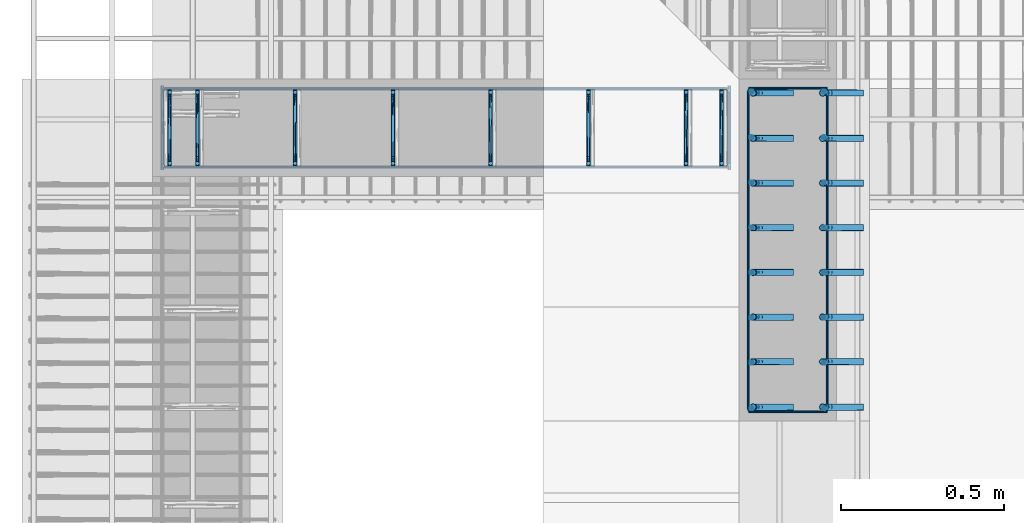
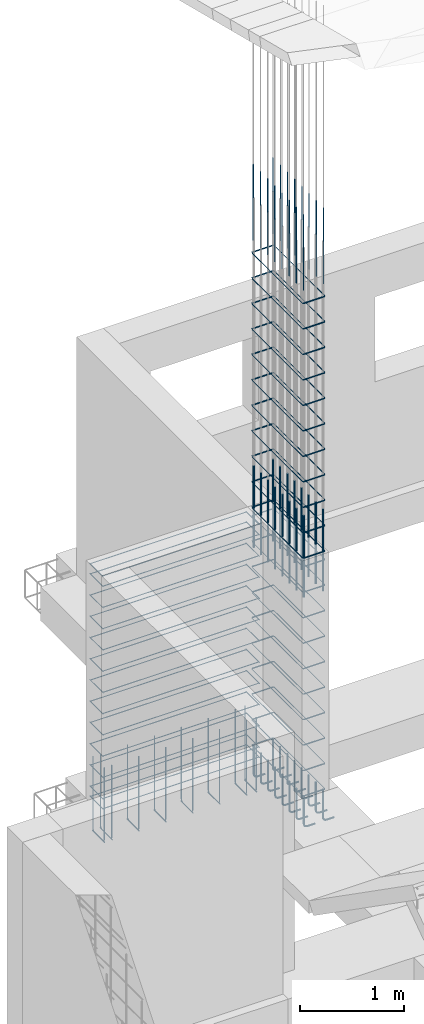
# One storey, part 10 of 15: 8 reinforcing bars.
"""IFC4 building model written with IfcOpenShell, lengths in metres."""

from ifc_helpers import new_model, entity, si_unit, origin_with_axes, place, context, project, spatial, source, transform, mapped, element, save


model = new_model("IFC4")

# Units and contexts
model_context = context("Model", 3, precision=1e-05, world=origin_with_axes())
ifc_project = project(units=[si_unit("LENGTHUNIT", "METRE"), si_unit("AREAUNIT", "SQUARE_METRE"), si_unit("VOLUMEUNIT", "CUBIC_METRE"), si_unit("MASSUNIT", "GRAM", prefix="KILO"), si_unit("TIMEUNIT", "SECOND"), si_unit("PLANEANGLEUNIT", "RADIAN"), si_unit("SOLIDANGLEUNIT", "STERADIAN"), si_unit("THERMODYNAMICTEMPERATUREUNIT", "DEGREE_CELSIUS")], contexts=[model_context])

# Site, building, storey
placement_1 = place(None, origin_with_axes())
site = spatial("IfcSite", under=ifc_project, at=placement_1, Name="Italia", CompositionType="ELEMENT")
building = spatial("IfcBuilding", under=site, at=placement_1, Name="Bifamiliare", CompositionType="ELEMENT")
storey = spatial("IfcBuildingStorey", under=building, at=placement_1, Name="Storey 0", CompositionType="ELEMENT", Elevation=0.0)

# Reinforcing bars
shared_shape_1 = source(origin_with_axes(), model_context, "Body", "AdvancedSweptSolid", [
    entity("IfcSweptDiskSolid", entity("IfcIndexedPolyCurve", entity("IfcCartesianPointList3D", [[6.182, 12.557, -0.375], [6.097, 12.557, -0.375], [6.08169, 12.557, -0.371955], [6.06872, 12.557, -0.363284], [6.06005, 12.557, -0.350307], [6.057, 12.557, -0.335], [6.057, 12.557, 0.0]]), [entity("IfcLineIndex", [1, 2]), entity("IfcLineIndex", [2, 3]), entity("IfcLineIndex", [3, 4]), entity("IfcLineIndex", [4, 5]), entity("IfcLineIndex", [5, 6]), entity("IfcLineIndex", [6, 7])], False), 0.01),
])
placement_2 = place(placement_1, origin_with_axes())
reinforcing_bar_1_placement = place(placement_2, origin_with_axes())
element("IfcReinforcingBar", 1, at=reinforcing_bar_1_placement, inside=storey, BarLength=0.482429, CrossSectionArea=0.00031416, NominalDiameter=0.02, context=model_context, shape_type="MappedRepresentation", body=[
    mapped(shared_shape_1, transform((0.0, -0.687715, 0.0), x_axis=(1.0, 0.0, 0.0), y_axis=(0.0, 1.0, 0.0), z_axis=(0.0, 0.0, 1.0), scale=1.0)),
    mapped(shared_shape_1, transform((0.0, -0.550571, 0.0), x_axis=(1.0, 0.0, 0.0), y_axis=(0.0, 1.0, 0.0), z_axis=(0.0, 0.0, 1.0), scale=1.0)),
    mapped(shared_shape_1, transform((0.0, -0.964001, 0.0), x_axis=(1.0, 0.0, 0.0), y_axis=(0.0, 1.0, 0.0), z_axis=(0.0, 0.0, 1.0), scale=1.0)),
    mapped(shared_shape_1, transform((0.0, -0.824858, 0.0), x_axis=(1.0, 0.0, 0.0), y_axis=(0.0, 1.0, 0.0), z_axis=(0.0, 0.0, 1.0), scale=1.0)),
    mapped(shared_shape_1, transform((0.0, -0.139143, 0.0), x_axis=(1.0, 0.0, 0.0), y_axis=(0.0, 1.0, 0.0), z_axis=(0.0, 0.0, 1.0), scale=1.0)),
    mapped(shared_shape_1, transform((0.0, 0.0, 0.0), x_axis=(1.0, 0.0, 0.0), y_axis=(0.0, 1.0, 0.0), z_axis=(0.0, 0.0, 1.0), scale=1.0)),
    mapped(shared_shape_1, transform((0.0, -0.413429, 0.0), x_axis=(1.0, 0.0, 0.0), y_axis=(0.0, 1.0, 0.0), z_axis=(0.0, 0.0, 1.0), scale=1.0)),
    mapped(shared_shape_1, transform((0.0, -0.276286, 0.0), x_axis=(1.0, 0.0, 0.0), y_axis=(0.0, 1.0, 0.0), z_axis=(0.0, 0.0, 1.0), scale=1.0)),
    mapped(shared_shape_1, transform((-0.214, -0.276286, 0.0), x_axis=(1.0, 0.0, 0.0), y_axis=(0.0, 1.0, 0.0), z_axis=(0.0, 0.0, 1.0), scale=1.0)),
    mapped(shared_shape_1, transform((-0.214, -0.413429, 0.0), x_axis=(1.0, 0.0, 0.0), y_axis=(0.0, 1.0, 0.0), z_axis=(0.0, 0.0, 1.0), scale=1.0)),
    mapped(shared_shape_1, transform((-0.214, 0.0, 0.0), x_axis=(1.0, 0.0, 0.0), y_axis=(0.0, 1.0, 0.0), z_axis=(0.0, 0.0, 1.0), scale=1.0)),
    mapped(shared_shape_1, transform((-0.214, -0.139143, 0.0), x_axis=(1.0, 0.0, 0.0), y_axis=(0.0, 1.0, 0.0), z_axis=(0.0, 0.0, 1.0), scale=1.0)),
    mapped(shared_shape_1, transform((-0.214, -0.824858, 0.0), x_axis=(1.0, 0.0, 0.0), y_axis=(0.0, 1.0, 0.0), z_axis=(0.0, 0.0, 1.0), scale=1.0)),
    mapped(shared_shape_1, transform((-0.214, -0.964001, 0.0), x_axis=(1.0, 0.0, 0.0), y_axis=(0.0, 1.0, 0.0), z_axis=(0.0, 0.0, 1.0), scale=1.0)),
    mapped(shared_shape_1, transform((-0.214, -0.550571, 0.0), x_axis=(1.0, 0.0, 0.0), y_axis=(0.0, 1.0, 0.0), z_axis=(0.0, 0.0, 1.0), scale=1.0)),
    mapped(shared_shape_1, transform((-0.214, -0.687715, 0.0), x_axis=(1.0, 0.0, 0.0), y_axis=(0.0, 1.0, 0.0), z_axis=(0.0, 0.0, 1.0), scale=1.0)),
])
shared_shape_2 = source(origin_with_axes(), model_context, "Body", "AdvancedSweptSolid", [
    entity("IfcSweptDiskSolid", entity("IfcIndexedPolyCurve", entity("IfcCartesianPointList3D", [[6.057, 12.557, 2.33333], [6.057, 12.557, 3.3]]), [entity("IfcLineIndex", [1, 2])], False), 0.01),
])
reinforcing_bar_2_placement = place(placement_2, origin_with_axes())
element("IfcReinforcingBar", 2, at=reinforcing_bar_2_placement, inside=storey, BarLength=0.966667, CrossSectionArea=0.00031416, NominalDiameter=0.02, context=model_context, shape_type="MappedRepresentation", body=[
    mapped(shared_shape_2, transform((0.0, -0.687715, 0.0), x_axis=(1.0, 0.0, 0.0), y_axis=(0.0, 1.0, 0.0), z_axis=(0.0, 0.0, 1.0), scale=1.0)),
    mapped(shared_shape_2, transform((0.0, -0.550571, 0.0), x_axis=(1.0, 0.0, 0.0), y_axis=(0.0, 1.0, 0.0), z_axis=(0.0, 0.0, 1.0), scale=1.0)),
    mapped(shared_shape_2, transform((0.0, -0.964001, 0.0), x_axis=(1.0, 0.0, 0.0), y_axis=(0.0, 1.0, 0.0), z_axis=(0.0, 0.0, 1.0), scale=1.0)),
    mapped(shared_shape_2, transform((0.0, -0.824858, 0.0), x_axis=(1.0, 0.0, 0.0), y_axis=(0.0, 1.0, 0.0), z_axis=(0.0, 0.0, 1.0), scale=1.0)),
    mapped(shared_shape_2, transform((0.0, -0.139143, 0.0), x_axis=(1.0, 0.0, 0.0), y_axis=(0.0, 1.0, 0.0), z_axis=(0.0, 0.0, 1.0), scale=1.0)),
    mapped(shared_shape_2, transform((0.0, 0.0, 0.0), x_axis=(1.0, 0.0, 0.0), y_axis=(0.0, 1.0, 0.0), z_axis=(0.0, 0.0, 1.0), scale=1.0)),
    mapped(shared_shape_2, transform((0.0, -0.413429, 0.0), x_axis=(1.0, 0.0, 0.0), y_axis=(0.0, 1.0, 0.0), z_axis=(0.0, 0.0, 1.0), scale=1.0)),
    mapped(shared_shape_2, transform((0.0, -0.276286, 0.0), x_axis=(1.0, 0.0, 0.0), y_axis=(0.0, 1.0, 0.0), z_axis=(0.0, 0.0, 1.0), scale=1.0)),
    mapped(shared_shape_2, transform((-0.214, -0.276286, 0.0), x_axis=(1.0, 0.0, 0.0), y_axis=(0.0, 1.0, 0.0), z_axis=(0.0, 0.0, 1.0), scale=1.0)),
    mapped(shared_shape_2, transform((-0.214, -0.413429, 0.0), x_axis=(1.0, 0.0, 0.0), y_axis=(0.0, 1.0, 0.0), z_axis=(0.0, 0.0, 1.0), scale=1.0)),
    mapped(shared_shape_2, transform((-0.214, 0.0, 0.0), x_axis=(1.0, 0.0, 0.0), y_axis=(0.0, 1.0, 0.0), z_axis=(0.0, 0.0, 1.0), scale=1.0)),
    mapped(shared_shape_2, transform((-0.214, -0.139143, 0.0), x_axis=(1.0, 0.0, 0.0), y_axis=(0.0, 1.0, 0.0), z_axis=(0.0, 0.0, 1.0), scale=1.0)),
    mapped(shared_shape_2, transform((-0.214, -0.824858, 0.0), x_axis=(1.0, 0.0, 0.0), y_axis=(0.0, 1.0, 0.0), z_axis=(0.0, 0.0, 1.0), scale=1.0)),
    mapped(shared_shape_2, transform((-0.214, -0.964001, 0.0), x_axis=(1.0, 0.0, 0.0), y_axis=(0.0, 1.0, 0.0), z_axis=(0.0, 0.0, 1.0), scale=1.0)),
    mapped(shared_shape_2, transform((-0.214, -0.550571, 0.0), x_axis=(1.0, 0.0, 0.0), y_axis=(0.0, 1.0, 0.0), z_axis=(0.0, 0.0, 1.0), scale=1.0)),
    mapped(shared_shape_2, transform((-0.214, -0.687715, 0.0), x_axis=(1.0, 0.0, 0.0), y_axis=(0.0, 1.0, 0.0), z_axis=(0.0, 0.0, 1.0), scale=1.0)),
])
shared_shape_3 = source(origin_with_axes(), model_context, "Body", "AdvancedSweptSolid", [
    entity("IfcSweptDiskSolid", entity("IfcIndexedPolyCurve", entity("IfcCartesianPointList3D", [[5.829, 12.571, 0.008], [6.061, 12.571, 0.008], [6.06483, 12.5702, 0.008], [6.06807, 12.5681, 0.008], [6.07024, 12.5648, 0.008], [6.071, 12.561, 0.008], [6.071, 11.589, 0.008], [6.07024, 11.5852, 0.008], [6.06807, 11.5819, 0.008], [6.06483, 11.5798, 0.008], [6.061, 11.579, 0.008], [5.829, 11.579, 0.008]]), [entity("IfcLineIndex", [1, 2]), entity("IfcLineIndex", [2, 3]), entity("IfcLineIndex", [3, 4]), entity("IfcLineIndex", [4, 5]), entity("IfcLineIndex", [5, 6]), entity("IfcLineIndex", [6, 7]), entity("IfcLineIndex", [7, 8]), entity("IfcLineIndex", [8, 9]), entity("IfcLineIndex", [9, 10]), entity("IfcLineIndex", [10, 11]), entity("IfcLineIndex", [11, 12])], False), 0.004),
])
reinforcing_bar_3_placement = place(placement_2, origin_with_axes())
element("IfcReinforcingBar", 3, at=reinforcing_bar_3_placement, inside=storey, BarLength=1.46722, CrossSectionArea=5.0265e-05, NominalDiameter=0.008, context=model_context, shape_type="MappedRepresentation", body=[
    mapped(shared_shape_3, transform((0.0, 0.0, 0.0), x_axis=(1.0, 0.0, 0.0), y_axis=(0.0, 1.0, 0.0), z_axis=(0.0, 0.0, 1.0), scale=1.0)),
    mapped(shared_shape_3, transform((0.0, 0.0, 0.6), x_axis=(1.0, 0.0, 0.0), y_axis=(0.0, 1.0, 0.0), z_axis=(0.0, 0.0, 1.0), scale=1.0)),
    mapped(shared_shape_3, transform((0.0, 0.0, 0.3), x_axis=(1.0, 0.0, 0.0), y_axis=(0.0, 1.0, 0.0), z_axis=(0.0, 0.0, 1.0), scale=1.0)),
    mapped(shared_shape_3, transform((11.9, 24.15, 0.892), x_axis=(-1.0, 0.0, 0.0), y_axis=(0.0, -1.0, 0.0), z_axis=(0.0, 0.0, 1.0), scale=1.0)),
    mapped(shared_shape_3, transform((11.9, 24.15, 0.592), x_axis=(-1.0, 0.0, 0.0), y_axis=(0.0, -1.0, 0.0), z_axis=(0.0, 0.0, 1.0), scale=1.0)),
    mapped(shared_shape_3, transform((0.0, 0.0, 1.2), x_axis=(1.0, 0.0, 0.0), y_axis=(0.0, 1.0, 0.0), z_axis=(0.0, 0.0, 1.0), scale=1.0)),
    mapped(shared_shape_3, transform((11.9, 24.15, 0.292), x_axis=(-1.0, 0.0, 0.0), y_axis=(0.0, -1.0, 0.0), z_axis=(0.0, 0.0, 1.0), scale=1.0)),
    mapped(shared_shape_3, transform((0.0, 0.0, 1.5), x_axis=(1.0, 0.0, 0.0), y_axis=(0.0, 1.0, 0.0), z_axis=(0.0, 0.0, 1.0), scale=1.0)),
    mapped(shared_shape_3, transform((0.0, 0.0, 0.9), x_axis=(1.0, 0.0, 0.0), y_axis=(0.0, 1.0, 0.0), z_axis=(0.0, 0.0, 1.0), scale=1.0)),
    mapped(shared_shape_3, transform((11.9, 24.15, 1.192), x_axis=(-1.0, 0.0, 0.0), y_axis=(0.0, -1.0, 0.0), z_axis=(0.0, 0.0, 1.0), scale=1.0)),
    mapped(shared_shape_3, transform((11.9, 24.15, 1.792), x_axis=(-1.0, 0.0, 0.0), y_axis=(0.0, -1.0, 0.0), z_axis=(0.0, 0.0, 1.0), scale=1.0)),
    mapped(shared_shape_3, transform((11.9, 24.15, 1.492), x_axis=(-1.0, 0.0, 0.0), y_axis=(0.0, -1.0, 0.0), z_axis=(0.0, 0.0, 1.0), scale=1.0)),
    mapped(shared_shape_3, transform((0.0, 0.0, 2.7), x_axis=(1.0, 0.0, 0.0), y_axis=(0.0, 1.0, 0.0), z_axis=(0.0, 0.0, 1.0), scale=1.0)),
    mapped(shared_shape_3, transform((11.9, 24.15, -0.008), x_axis=(-1.0, 0.0, 0.0), y_axis=(0.0, -1.0, 0.0), z_axis=(0.0, 0.0, 1.0), scale=1.0)),
    mapped(shared_shape_3, transform((0.0, 0.0, 2.1), x_axis=(1.0, 0.0, 0.0), y_axis=(0.0, 1.0, 0.0), z_axis=(0.0, 0.0, 1.0), scale=1.0)),
    mapped(shared_shape_3, transform((0.0, 0.0, 2.4), x_axis=(1.0, 0.0, 0.0), y_axis=(0.0, 1.0, 0.0), z_axis=(0.0, 0.0, 1.0), scale=1.0)),
    mapped(shared_shape_3, transform((0.0, 0.0, 1.8), x_axis=(1.0, 0.0, 0.0), y_axis=(0.0, 1.0, 0.0), z_axis=(0.0, 0.0, 1.0), scale=1.0)),
    mapped(shared_shape_3, transform((11.9, 24.15, 2.392), x_axis=(-1.0, 0.0, 0.0), y_axis=(0.0, -1.0, 0.0), z_axis=(0.0, 0.0, 1.0), scale=1.0)),
    mapped(shared_shape_3, transform((11.9, 24.15, 2.092), x_axis=(-1.0, 0.0, 0.0), y_axis=(0.0, -1.0, 0.0), z_axis=(0.0, 0.0, 1.0), scale=1.0)),
    mapped(shared_shape_3, transform((11.9, 24.15, 2.692), x_axis=(-1.0, 0.0, 0.0), y_axis=(0.0, -1.0, 0.0), z_axis=(0.0, 0.0, 1.0), scale=1.0)),
])
shared_shape_4 = source(origin_with_axes(), model_context, "Body", "AdvancedSweptSolid", [
    entity("IfcSweptDiskSolid", entity("IfcIndexedPolyCurve", entity("IfcCartesianPointList3D", [[5.829, 12.571, 2.808], [6.061, 12.571, 2.808], [6.06483, 12.5702, 2.808], [6.06807, 12.5681, 2.808], [6.07024, 12.5648, 2.808], [6.071, 12.561, 2.808], [6.071, 11.589, 2.808], [6.07024, 11.5852, 2.808], [6.06807, 11.5819, 2.808], [6.06483, 11.5798, 2.808], [6.061, 11.579, 2.808], [5.829, 11.579, 2.808]]), [entity("IfcLineIndex", [1, 2]), entity("IfcLineIndex", [2, 3]), entity("IfcLineIndex", [3, 4]), entity("IfcLineIndex", [4, 5]), entity("IfcLineIndex", [5, 6]), entity("IfcLineIndex", [6, 7]), entity("IfcLineIndex", [7, 8]), entity("IfcLineIndex", [8, 9]), entity("IfcLineIndex", [9, 10]), entity("IfcLineIndex", [10, 11]), entity("IfcLineIndex", [11, 12])], False), 0.004),
])
reinforcing_bar_4_placement = place(placement_2, origin_with_axes())
element("IfcReinforcingBar", 4, at=reinforcing_bar_4_placement, inside=storey, BarLength=1.46722, CrossSectionArea=5.0265e-05, NominalDiameter=0.008, context=model_context, shape_type="MappedRepresentation", body=[
    mapped(shared_shape_4, transform((0.0, 0.0, 1.5), x_axis=(1.0, 0.0, 0.0), y_axis=(0.0, 1.0, 0.0), z_axis=(0.0, 0.0, 1.0), scale=1.0)),
    mapped(shared_shape_4, transform((0.0, 0.0, 0.3), x_axis=(1.0, 0.0, 0.0), y_axis=(0.0, 1.0, 0.0), z_axis=(0.0, 0.0, 1.0), scale=1.0)),
    mapped(shared_shape_4, transform((0.0, 0.0, 1.2), x_axis=(1.0, 0.0, 0.0), y_axis=(0.0, 1.0, 0.0), z_axis=(0.0, 0.0, 1.0), scale=1.0)),
    mapped(shared_shape_4, transform((0.0, 0.0, 2.4), x_axis=(1.0, 0.0, 0.0), y_axis=(0.0, 1.0, 0.0), z_axis=(0.0, 0.0, 1.0), scale=1.0)),
    mapped(shared_shape_4, transform((0.0, 0.0, 0.9), x_axis=(1.0, 0.0, 0.0), y_axis=(0.0, 1.0, 0.0), z_axis=(0.0, 0.0, 1.0), scale=1.0)),
    mapped(shared_shape_4, transform((0.0, 0.0, 2.7), x_axis=(1.0, 0.0, 0.0), y_axis=(0.0, 1.0, 0.0), z_axis=(0.0, 0.0, 1.0), scale=1.0)),
    mapped(shared_shape_4, transform((11.9, 24.15, -0.00800014), x_axis=(-1.0, 0.0, 0.0), y_axis=(0.0, -1.0, 0.0), z_axis=(0.0, 0.0, 1.0), scale=1.0)),
    mapped(shared_shape_4, transform((0.0, 0.0, 0.0), x_axis=(1.0, 0.0, 0.0), y_axis=(0.0, 1.0, 0.0), z_axis=(0.0, 0.0, 1.0), scale=1.0)),
    mapped(shared_shape_4, transform((11.9, 24.15, 0.592), x_axis=(-1.0, 0.0, 0.0), y_axis=(0.0, -1.0, 0.0), z_axis=(0.0, 0.0, 1.0), scale=1.0)),
    mapped(shared_shape_4, transform((11.9, 24.15, 0.292), x_axis=(-1.0, 0.0, 0.0), y_axis=(0.0, -1.0, 0.0), z_axis=(0.0, 0.0, 1.0), scale=1.0)),
    mapped(shared_shape_4, transform((0.0, 0.0, 0.6), x_axis=(1.0, 0.0, 0.0), y_axis=(0.0, 1.0, 0.0), z_axis=(0.0, 0.0, 1.0), scale=1.0)),
    mapped(shared_shape_4, transform((11.9, 24.15, 1.792), x_axis=(-1.0, 0.0, 0.0), y_axis=(0.0, -1.0, 0.0), z_axis=(0.0, 0.0, 1.0), scale=1.0)),
    mapped(shared_shape_4, transform((11.9, 24.15, 1.492), x_axis=(-1.0, 0.0, 0.0), y_axis=(0.0, -1.0, 0.0), z_axis=(0.0, 0.0, 1.0), scale=1.0)),
    mapped(shared_shape_4, transform((11.9, 24.15, 0.892), x_axis=(-1.0, 0.0, 0.0), y_axis=(0.0, -1.0, 0.0), z_axis=(0.0, 0.0, 1.0), scale=1.0)),
    mapped(shared_shape_4, transform((11.9, 24.15, 1.192), x_axis=(-1.0, 0.0, 0.0), y_axis=(0.0, -1.0, 0.0), z_axis=(0.0, 0.0, 1.0), scale=1.0)),
    mapped(shared_shape_4, transform((0.0, 0.0, 2.1), x_axis=(1.0, 0.0, 0.0), y_axis=(0.0, 1.0, 0.0), z_axis=(0.0, 0.0, 1.0), scale=1.0)),
    mapped(shared_shape_4, transform((0.0, 0.0, 3.0), x_axis=(1.0, 0.0, 0.0), y_axis=(0.0, 1.0, 0.0), z_axis=(0.0, 0.0, 1.0), scale=1.0)),
    mapped(shared_shape_4, transform((0.0, 0.0, 1.8), x_axis=(1.0, 0.0, 0.0), y_axis=(0.0, 1.0, 0.0), z_axis=(0.0, 0.0, 1.0), scale=1.0)),
    mapped(shared_shape_4, transform((11.9, 24.15, 2.092), x_axis=(-1.0, 0.0, 0.0), y_axis=(0.0, -1.0, 0.0), z_axis=(0.0, 0.0, 1.0), scale=1.0)),
    mapped(shared_shape_4, transform((11.9, 24.15, 2.392), x_axis=(-1.0, 0.0, 0.0), y_axis=(0.0, -1.0, 0.0), z_axis=(0.0, 0.0, 1.0), scale=1.0)),
    mapped(shared_shape_4, transform((11.9, 24.15, 2.692), x_axis=(-1.0, 0.0, 0.0), y_axis=(0.0, -1.0, 0.0), z_axis=(0.0, 0.0, 1.0), scale=1.0)),
    mapped(shared_shape_4, transform((11.9, 24.15, 2.992), x_axis=(-1.0, 0.0, 0.0), y_axis=(0.0, -1.0, 0.0), z_axis=(0.0, 0.0, 1.0), scale=1.0)),
])
shared_shape_5 = source(origin_with_axes(), model_context, "Body", "AdvancedSweptSolid", [
    entity("IfcSweptDiskSolid", entity("IfcIndexedPolyCurve", entity("IfcCartesianPointList3D", [[6.061, 12.561, 5.95], [6.061, 12.561, 6.41048]]), [entity("IfcLineIndex", [1, 2])], False), 0.006),
])
reinforcing_bar_5_placement = place(placement_2, origin_with_axes())
element("IfcReinforcingBar", 5, at=reinforcing_bar_5_placement, inside=storey, BarLength=0.460475, CrossSectionArea=0.0001131, NominalDiameter=0.012, context=model_context, shape_type="MappedRepresentation", body=[
    mapped(shared_shape_5, transform((0.0, -0.693429, 0.0), x_axis=(1.0, 0.0, 0.0), y_axis=(0.0, 1.0, 0.0), z_axis=(0.0, 0.0, 1.0), scale=1.0)),
    mapped(shared_shape_5, transform((0.0, -0.555143, 0.0), x_axis=(1.0, 0.0, 0.0), y_axis=(0.0, 1.0, 0.0), z_axis=(0.0, 0.0, 1.0), scale=1.0)),
    mapped(shared_shape_5, transform((0.0, -0.972, 0.0), x_axis=(1.0, 0.0, 0.0), y_axis=(0.0, 1.0, 0.0), z_axis=(0.0, 0.0, 1.0), scale=1.0)),
    mapped(shared_shape_5, transform((0.0, -0.831715, 0.0), x_axis=(1.0, 0.0, 0.0), y_axis=(0.0, 1.0, 0.0), z_axis=(0.0, 0.0, 1.0), scale=1.0)),
    mapped(shared_shape_5, transform((0.0, -0.140285, 0.0), x_axis=(1.0, 0.0, 0.0), y_axis=(0.0, 1.0, 0.0), z_axis=(0.0, 0.0, 1.0), scale=1.0)),
    mapped(shared_shape_5, transform((0.0, 0.0, 0.0), x_axis=(1.0, 0.0, 0.0), y_axis=(0.0, 1.0, 0.0), z_axis=(0.0, 0.0, 1.0), scale=1.0)),
    mapped(shared_shape_5, transform((0.0, -0.416857, 0.0), x_axis=(1.0, 0.0, 0.0), y_axis=(0.0, 1.0, 0.0), z_axis=(0.0, 0.0, 1.0), scale=1.0)),
    mapped(shared_shape_5, transform((0.0, -0.278571, 0.0), x_axis=(1.0, 0.0, 0.0), y_axis=(0.0, 1.0, 0.0), z_axis=(0.0, 0.0, 1.0), scale=1.0)),
    mapped(shared_shape_5, transform((-0.222, -0.278571, 0.0), x_axis=(1.0, 0.0, 0.0), y_axis=(0.0, 1.0, 0.0), z_axis=(0.0, 0.0, 1.0), scale=1.0)),
    mapped(shared_shape_5, transform((-0.222, -0.416857, 0.0), x_axis=(1.0, 0.0, 0.0), y_axis=(0.0, 1.0, 0.0), z_axis=(0.0, 0.0, 1.0), scale=1.0)),
    mapped(shared_shape_5, transform((-0.222, 0.0, 0.0), x_axis=(1.0, 0.0, 0.0), y_axis=(0.0, 1.0, 0.0), z_axis=(0.0, 0.0, 1.0), scale=1.0)),
    mapped(shared_shape_5, transform((-0.222, -0.140285, 0.0), x_axis=(1.0, 0.0, 0.0), y_axis=(0.0, 1.0, 0.0), z_axis=(0.0, 0.0, 1.0), scale=1.0)),
    mapped(shared_shape_5, transform((-0.222, -0.831715, 0.0), x_axis=(1.0, 0.0, 0.0), y_axis=(0.0, 1.0, 0.0), z_axis=(0.0, 0.0, 1.0), scale=1.0)),
    mapped(shared_shape_5, transform((-0.222, -0.972, 0.0), x_axis=(1.0, 0.0, 0.0), y_axis=(0.0, 1.0, 0.0), z_axis=(0.0, 0.0, 1.0), scale=1.0)),
    mapped(shared_shape_5, transform((-0.222, -0.555143, 0.0), x_axis=(1.0, 0.0, 0.0), y_axis=(0.0, 1.0, 0.0), z_axis=(0.0, 0.0, 1.0), scale=1.0)),
    mapped(shared_shape_5, transform((-0.222, -0.693429, 0.0), x_axis=(1.0, 0.0, 0.0), y_axis=(0.0, 1.0, 0.0), z_axis=(0.0, 0.0, 1.0), scale=1.0)),
])
shared_shape_6 = source(origin_with_axes(), model_context, "Body", "AdvancedSweptSolid", [
    entity("IfcSweptDiskSolid", entity("IfcIndexedPolyCurve", entity("IfcCartesianPointList3D", [[6.061, 12.561, 6.41048], [6.061, 12.561, 6.84619]]), [entity("IfcLineIndex", [1, 2])], False), 0.006),
])
reinforcing_bar_6_placement = place(placement_2, origin_with_axes())
element("IfcReinforcingBar", 6, at=reinforcing_bar_6_placement, inside=storey, BarLength=0.435714, CrossSectionArea=0.0001131, NominalDiameter=0.012, context=model_context, shape_type="MappedRepresentation", body=[
    mapped(shared_shape_6, transform((0.0, -0.693429, 0.0), x_axis=(1.0, 0.0, 0.0), y_axis=(0.0, 1.0, 0.0), z_axis=(0.0, 0.0, 1.0), scale=1.0)),
    mapped(shared_shape_6, transform((0.0, -0.555143, 0.0), x_axis=(1.0, 0.0, 0.0), y_axis=(0.0, 1.0, 0.0), z_axis=(0.0, 0.0, 1.0), scale=1.0)),
    mapped(shared_shape_6, transform((0.0, -0.972, 0.0), x_axis=(1.0, 0.0, 0.0), y_axis=(0.0, 1.0, 0.0), z_axis=(0.0, 0.0, 1.0), scale=1.0)),
    mapped(shared_shape_6, transform((0.0, -0.831715, 0.0), x_axis=(1.0, 0.0, 0.0), y_axis=(0.0, 1.0, 0.0), z_axis=(0.0, 0.0, 1.0), scale=1.0)),
    mapped(shared_shape_6, transform((0.0, -0.140285, 0.0), x_axis=(1.0, 0.0, 0.0), y_axis=(0.0, 1.0, 0.0), z_axis=(0.0, 0.0, 1.0), scale=1.0)),
    mapped(shared_shape_6, transform((0.0, 0.0, 0.0), x_axis=(1.0, 0.0, 0.0), y_axis=(0.0, 1.0, 0.0), z_axis=(0.0, 0.0, 1.0), scale=1.0)),
    mapped(shared_shape_6, transform((0.0, -0.416857, 0.0), x_axis=(1.0, 0.0, 0.0), y_axis=(0.0, 1.0, 0.0), z_axis=(0.0, 0.0, 1.0), scale=1.0)),
    mapped(shared_shape_6, transform((0.0, -0.278571, 0.0), x_axis=(1.0, 0.0, 0.0), y_axis=(0.0, 1.0, 0.0), z_axis=(0.0, 0.0, 1.0), scale=1.0)),
    mapped(shared_shape_6, transform((-0.222, -0.278571, 0.0), x_axis=(1.0, 0.0, 0.0), y_axis=(0.0, 1.0, 0.0), z_axis=(0.0, 0.0, 1.0), scale=1.0)),
    mapped(shared_shape_6, transform((-0.222, -0.416857, 0.0), x_axis=(1.0, 0.0, 0.0), y_axis=(0.0, 1.0, 0.0), z_axis=(0.0, 0.0, 1.0), scale=1.0)),
    mapped(shared_shape_6, transform((-0.222, 0.0, 0.0), x_axis=(1.0, 0.0, 0.0), y_axis=(0.0, 1.0, 0.0), z_axis=(0.0, 0.0, 1.0), scale=1.0)),
    mapped(shared_shape_6, transform((-0.222, -0.140285, 0.0), x_axis=(1.0, 0.0, 0.0), y_axis=(0.0, 1.0, 0.0), z_axis=(0.0, 0.0, 1.0), scale=1.0)),
    mapped(shared_shape_6, transform((-0.222, -0.831715, 0.0), x_axis=(1.0, 0.0, 0.0), y_axis=(0.0, 1.0, 0.0), z_axis=(0.0, 0.0, 1.0), scale=1.0)),
    mapped(shared_shape_6, transform((-0.222, -0.972, 0.0), x_axis=(1.0, 0.0, 0.0), y_axis=(0.0, 1.0, 0.0), z_axis=(0.0, 0.0, 1.0), scale=1.0)),
    mapped(shared_shape_6, transform((-0.222, -0.555143, 0.0), x_axis=(1.0, 0.0, 0.0), y_axis=(0.0, 1.0, 0.0), z_axis=(0.0, 0.0, 1.0), scale=1.0)),
    mapped(shared_shape_6, transform((-0.222, -0.693429, 0.0), x_axis=(1.0, 0.0, 0.0), y_axis=(0.0, 1.0, 0.0), z_axis=(0.0, 0.0, 1.0), scale=1.0)),
])
shared_shape_7 = source(origin_with_axes(), model_context, "Body", "AdvancedSweptSolid", [
    entity("IfcSweptDiskSolid", entity("IfcIndexedPolyCurve", entity("IfcCartesianPointList3D", [[4.053, 12.341, 0.5], [4.053, 12.341, -0.345], [4.053, 12.3433, -0.356481], [4.053, 12.3498, -0.366213], [4.053, 12.3595, -0.372716], [4.053, 12.371, -0.375], [4.053, 12.567, -0.375]]), [entity("IfcLineIndex", [1, 2]), entity("IfcLineIndex", [2, 3]), entity("IfcLineIndex", [3, 4]), entity("IfcLineIndex", [4, 5]), entity("IfcLineIndex", [5, 6]), entity("IfcLineIndex", [6, 7])], False), 0.006),
])
reinforcing_bar_7_placement = place(placement_2, origin_with_axes())
element("IfcReinforcingBar", 7, at=reinforcing_bar_7_placement, inside=storey, BarLength=1.08782, CrossSectionArea=0.0001131, NominalDiameter=0.012, context=model_context, shape_type="MappedRepresentation", body=[
    mapped(shared_shape_7, transform((8.491, 24.9, 0.0), x_axis=(-1.0, 0.0, 0.0), y_axis=(0.0, -1.0, 0.0), z_axis=(0.0, 0.0, 1.0), scale=1.0)),
    mapped(shared_shape_7, transform((0.385, 0.0, 0.0), x_axis=(1.0, 0.0, 0.0), y_axis=(0.0, 1.0, 0.0), z_axis=(0.0, 0.0, 1.0), scale=1.0)),
    mapped(shared_shape_7, transform((8.791, 24.9, 0.0), x_axis=(-1.0, 0.0, 0.0), y_axis=(0.0, -1.0, 0.0), z_axis=(0.0, 0.0, 1.0), scale=1.0)),
    mapped(shared_shape_7, transform((0.685, 0.0, 0.0), x_axis=(1.0, 0.0, 0.0), y_axis=(0.0, 1.0, 0.0), z_axis=(0.0, 0.0, 1.0), scale=1.0)),
    mapped(shared_shape_7, transform((8.106, 24.9, 0.0), x_axis=(-1.0, 0.0, 0.0), y_axis=(0.0, -1.0, 0.0), z_axis=(0.0, 0.0, 1.0), scale=1.0)),
    mapped(shared_shape_7, transform((0.0, 0.0, 0.0), x_axis=(1.0, 0.0, 0.0), y_axis=(0.0, 1.0, 0.0), z_axis=(0.0, 0.0, 1.0), scale=1.0)),
    mapped(shared_shape_7, transform((8.191, 24.9, 0.0), x_axis=(-1.0, 0.0, 0.0), y_axis=(0.0, -1.0, 0.0), z_axis=(0.0, 0.0, 1.0), scale=1.0)),
    mapped(shared_shape_7, transform((0.085, 0.0, 0.0), x_axis=(1.0, 0.0, 0.0), y_axis=(0.0, 1.0, 0.0), z_axis=(0.0, 0.0, 1.0), scale=1.0)),
    mapped(shared_shape_7, transform((9.691, 24.9, 0.0), x_axis=(-1.0, 0.0, 0.0), y_axis=(0.0, -1.0, 0.0), z_axis=(0.0, 0.0, 1.0), scale=1.0)),
    mapped(shared_shape_7, transform((1.585, 0.0, 0.0), x_axis=(1.0, 0.0, 0.0), y_axis=(0.0, 1.0, 0.0), z_axis=(0.0, 0.0, 1.0), scale=1.0)),
    mapped(shared_shape_7, transform((9.8, 24.9, 0.0), x_axis=(-1.0, 0.0, 0.0), y_axis=(0.0, -1.0, 0.0), z_axis=(0.0, 0.0, 1.0), scale=1.0)),
    mapped(shared_shape_7, transform((1.694, 0.0, 0.0), x_axis=(1.0, 0.0, 0.0), y_axis=(0.0, 1.0, 0.0), z_axis=(0.0, 0.0, 1.0), scale=1.0)),
    mapped(shared_shape_7, transform((9.091, 24.9, 0.0), x_axis=(-1.0, 0.0, 0.0), y_axis=(0.0, -1.0, 0.0), z_axis=(0.0, 0.0, 1.0), scale=1.0)),
    mapped(shared_shape_7, transform((0.985, 0.0, 0.0), x_axis=(1.0, 0.0, 0.0), y_axis=(0.0, 1.0, 0.0), z_axis=(0.0, 0.0, 1.0), scale=1.0)),
    mapped(shared_shape_7, transform((9.391, 24.9, 0.0), x_axis=(-1.0, 0.0, 0.0), y_axis=(0.0, -1.0, 0.0), z_axis=(0.0, 0.0, 1.0), scale=1.0)),
    mapped(shared_shape_7, transform((1.285, 0.0, 0.0), x_axis=(1.0, 0.0, 0.0), y_axis=(0.0, 1.0, 0.0), z_axis=(0.0, 0.0, 1.0), scale=1.0)),
])
shared_shape_8 = source(origin_with_axes(), model_context, "Body", "AdvancedSweptSolid", [
    entity("IfcSweptDiskSolid", entity("IfcIndexedPolyCurve", entity("IfcCartesianPointList3D", [[4.03, 12.32, 0.03], [4.03, 12.56, 0.03], [4.03076, 12.5638, 0.03], [4.03293, 12.5671, 0.03], [4.03617, 12.5692, 0.03], [4.04, 12.57, 0.03], [5.76, 12.57, 0.03], [5.76383, 12.5692, 0.03], [5.76707, 12.5671, 0.03], [5.76924, 12.5638, 0.03], [5.77, 12.56, 0.03], [5.77, 12.32, 0.03]]), [entity("IfcLineIndex", [1, 2]), entity("IfcLineIndex", [2, 3]), entity("IfcLineIndex", [3, 4]), entity("IfcLineIndex", [4, 5]), entity("IfcLineIndex", [5, 6]), entity("IfcLineIndex", [6, 7]), entity("IfcLineIndex", [7, 8]), entity("IfcLineIndex", [8, 9]), entity("IfcLineIndex", [9, 10]), entity("IfcLineIndex", [10, 11]), entity("IfcLineIndex", [11, 12])], False), 0.005),
])
reinforcing_bar_8_placement = place(placement_2, origin_with_axes())
element("IfcReinforcingBar", 8, at=reinforcing_bar_8_placement, inside=storey, BarLength=2.23122, CrossSectionArea=7.854e-05, NominalDiameter=0.01, context=model_context, shape_type="MappedRepresentation", body=[
    mapped(shared_shape_8, transform((9.8, 24.9, 0.0), x_axis=(-1.0, 0.0, 0.0), y_axis=(0.0, -1.0, 0.0), z_axis=(0.0, 0.0, 1.0), scale=1.0)),
    mapped(shared_shape_8, transform((0.0, 0.0, 1.37), x_axis=(1.0, 0.0, 0.0), y_axis=(0.0, 1.0, 0.0), z_axis=(0.0, 0.0, 1.0), scale=1.0)),
    mapped(shared_shape_8, transform((0.0, 0.0, 2.37), x_axis=(1.0, 0.0, 0.0), y_axis=(0.0, 1.0, 0.0), z_axis=(0.0, 0.0, 1.0), scale=1.0)),
    mapped(shared_shape_8, transform((0.0, 0.0, 0.87), x_axis=(1.0, 0.0, 0.0), y_axis=(0.0, 1.0, 0.0), z_axis=(0.0, 0.0, 1.0), scale=1.0)),
    mapped(shared_shape_8, transform((0.0, 0.0, 0.62), x_axis=(1.0, 0.0, 0.0), y_axis=(0.0, 1.0, 0.0), z_axis=(0.0, 0.0, 1.0), scale=1.0)),
    mapped(shared_shape_8, transform((0.0, 0.0, 2.74), x_axis=(1.0, 0.0, 0.0), y_axis=(0.0, 1.0, 0.0), z_axis=(0.0, 0.0, 1.0), scale=1.0)),
    mapped(shared_shape_8, transform((0.0, 0.0, 1.12), x_axis=(1.0, 0.0, 0.0), y_axis=(0.0, 1.0, 0.0), z_axis=(0.0, 0.0, 1.0), scale=1.0)),
    mapped(shared_shape_8, transform((0.0, 0.0, 2.62), x_axis=(1.0, 0.0, 0.0), y_axis=(0.0, 1.0, 0.0), z_axis=(0.0, 0.0, 1.0), scale=1.0)),
    mapped(shared_shape_8, transform((0.0, 0.0, 1.62), x_axis=(1.0, 0.0, 0.0), y_axis=(0.0, 1.0, 0.0), z_axis=(0.0, 0.0, 1.0), scale=1.0)),
    mapped(shared_shape_8, transform((0.0, 0.0, 0.12), x_axis=(1.0, 0.0, 0.0), y_axis=(0.0, 1.0, 0.0), z_axis=(0.0, 0.0, 1.0), scale=1.0)),
    mapped(shared_shape_8, transform((0.0, 0.0, 0.0), x_axis=(1.0, 0.0, 0.0), y_axis=(0.0, 1.0, 0.0), z_axis=(0.0, 0.0, 1.0), scale=1.0)),
    mapped(shared_shape_8, transform((9.8, 24.9, 0.12), x_axis=(-1.0, 0.0, 0.0), y_axis=(0.0, -1.0, 0.0), z_axis=(0.0, 0.0, 1.0), scale=1.0)),
    mapped(shared_shape_8, transform((9.8, 24.9, 0.37), x_axis=(-1.0, 0.0, 0.0), y_axis=(0.0, -1.0, 0.0), z_axis=(0.0, 0.0, 1.0), scale=1.0)),
    mapped(shared_shape_8, transform((0.0, 0.0, 2.12), x_axis=(1.0, 0.0, 0.0), y_axis=(0.0, 1.0, 0.0), z_axis=(0.0, 0.0, 1.0), scale=1.0)),
    mapped(shared_shape_8, transform((0.0, 0.0, 0.37), x_axis=(1.0, 0.0, 0.0), y_axis=(0.0, 1.0, 0.0), z_axis=(0.0, 0.0, 1.0), scale=1.0)),
    mapped(shared_shape_8, transform((9.8, 24.9, 1.37), x_axis=(-1.0, 0.0, 0.0), y_axis=(0.0, -1.0, 0.0), z_axis=(0.0, 0.0, 1.0), scale=1.0)),
    mapped(shared_shape_8, transform((9.8, 24.9, 1.62), x_axis=(-1.0, 0.0, 0.0), y_axis=(0.0, -1.0, 0.0), z_axis=(0.0, 0.0, 1.0), scale=1.0)),
    mapped(shared_shape_8, transform((9.8, 24.9, 1.87), x_axis=(-1.0, 0.0, 0.0), y_axis=(0.0, -1.0, 0.0), z_axis=(0.0, 0.0, 1.0), scale=1.0)),
    mapped(shared_shape_8, transform((9.8, 24.9, 1.12), x_axis=(-1.0, 0.0, 0.0), y_axis=(0.0, -1.0, 0.0), z_axis=(0.0, 0.0, 1.0), scale=1.0)),
    mapped(shared_shape_8, transform((9.8, 24.9, 0.62), x_axis=(-1.0, 0.0, 0.0), y_axis=(0.0, -1.0, 0.0), z_axis=(0.0, 0.0, 1.0), scale=1.0)),
    mapped(shared_shape_8, transform((9.8, 24.9, 0.87), x_axis=(-1.0, 0.0, 0.0), y_axis=(0.0, -1.0, 0.0), z_axis=(0.0, 0.0, 1.0), scale=1.0)),
    mapped(shared_shape_8, transform((0.0, 0.0, 1.87), x_axis=(1.0, 0.0, 0.0), y_axis=(0.0, 1.0, 0.0), z_axis=(0.0, 0.0, 1.0), scale=1.0)),
    mapped(shared_shape_8, transform((9.8, 24.9, 2.37), x_axis=(-1.0, 0.0, 0.0), y_axis=(0.0, -1.0, 0.0), z_axis=(0.0, 0.0, 1.0), scale=1.0)),
    mapped(shared_shape_8, transform((9.8, 24.9, 2.74), x_axis=(-1.0, 0.0, 0.0), y_axis=(0.0, -1.0, 0.0), z_axis=(0.0, 0.0, 1.0), scale=1.0)),
    mapped(shared_shape_8, transform((9.8, 24.9, 2.62), x_axis=(-1.0, 0.0, 0.0), y_axis=(0.0, -1.0, 0.0), z_axis=(0.0, 0.0, 1.0), scale=1.0)),
    mapped(shared_shape_8, transform((9.8, 24.9, 2.12), x_axis=(-1.0, 0.0, 0.0), y_axis=(0.0, -1.0, 0.0), z_axis=(0.0, 0.0, 1.0), scale=1.0)),
])

save(model, "model.ifc")
